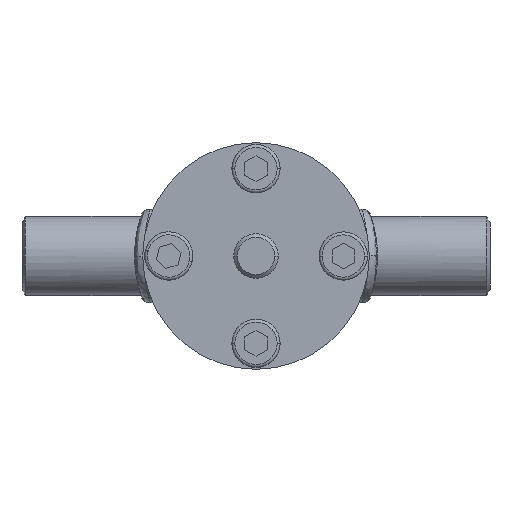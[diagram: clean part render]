
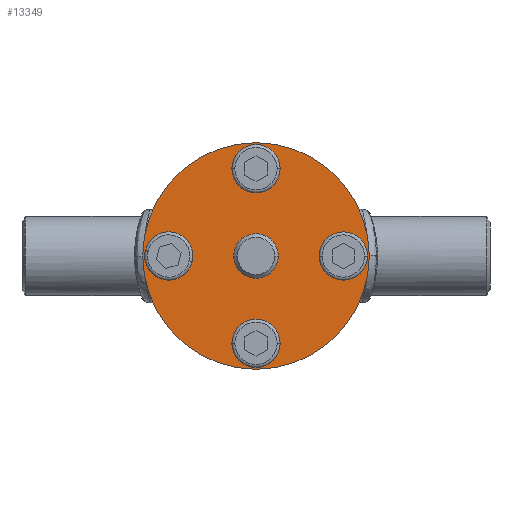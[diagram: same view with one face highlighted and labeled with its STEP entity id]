
A CAD part, front view. The second image highlights one B-rep face of the part: STEP entity #13349.
In plain terms, the highlighted planar face has unit normal (0, -1, 0) as drawn and (0, 0, -1) by its records, which use the part's own axes.
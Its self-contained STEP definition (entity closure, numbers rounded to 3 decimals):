
#16470 = CIRCLE ( 'NONE', #16471, 30.5 ) ;
#16471 = AXIS2_PLACEMENT_3D ( 'NONE', #16472, #16473, #16474 ) ;
#16472 = CARTESIAN_POINT ( 'NONE',  ( 0., 0., -18.5 ) ) ;
#16473 = DIRECTION ( 'NONE',  ( 0., 0., 1. ) ) ;
#16474 = DIRECTION ( 'NONE',  ( -1., 0., 0. ) ) ;
#451 = EDGE_LOOP ( 'NONE', ( #21326, #20352 ) ) ;
#16987 = EDGE_CURVE ( 'NONE', #12035, #12269, #16470, .T. ) ;
#659 = VERTEX_POINT ( 'NONE', #17938 ) ;
#899 = ORIENTED_EDGE ( 'NONE', *, *, #5964, .T. ) ;
#1073 = EDGE_CURVE ( 'NONE', #659, #13048, #18041, .T. ) ;
#17602 = CIRCLE ( 'NONE', #17603, 6. ) ;
#17603 = AXIS2_PLACEMENT_3D ( 'NONE', #17604, #17605, #17606 ) ;
#17604 = CARTESIAN_POINT ( 'NONE',  ( 0., 0., -18.5 ) ) ;
#17605 = DIRECTION ( 'NONE',  ( 0., 0., -1. ) ) ;
#17606 = DIRECTION ( 'NONE',  ( -1., 0., 0. ) ) ;
#17784 = ORIENTED_EDGE ( 'NONE', *, *, #2504, .T. ) ;
#1487 = EDGE_CURVE ( 'NONE', #11272, #10159, #18356, .T. ) ;
#17938 = CARTESIAN_POINT ( 'NONE',  ( -28., 0., -18.5 ) ) ;
#18041 = CIRCLE ( 'NONE', #18042, 4.5 ) ;
#18042 = AXIS2_PLACEMENT_3D ( 'NONE', #18043, #18044, #18045 ) ;
#18043 = CARTESIAN_POINT ( 'NONE',  ( -23.5, 0., -18.5 ) ) ;
#18044 = DIRECTION ( 'NONE',  ( 0., 0., 1. ) ) ;
#18045 = DIRECTION ( 'NONE',  ( -1., 0., 0. ) ) ;
#1666 = EDGE_CURVE ( 'NONE', #12659, #9835, #18495, .T. ) ;
#1737 = ORIENTED_EDGE ( 'NONE', *, *, #1073, .T. ) ;
#18356 = CIRCLE ( 'NONE', #18357, 4.5 ) ;
#18357 = AXIS2_PLACEMENT_3D ( 'NONE', #18358, #18359, #18360 ) ;
#18358 = CARTESIAN_POINT ( 'NONE',  ( 23.5, 0., -18.5 ) ) ;
#18359 = DIRECTION ( 'NONE',  ( 0., 0., 1. ) ) ;
#18360 = DIRECTION ( 'NONE',  ( -1., 0., 0. ) ) ;
#18446 = EDGE_LOOP ( 'NONE', ( #17784, #5643 ) ) ;
#18495 = CIRCLE ( 'NONE', #18496, 4.5 ) ;
#18496 = AXIS2_PLACEMENT_3D ( 'NONE', #18497, #18498, #18499 ) ;
#18497 = CARTESIAN_POINT ( 'NONE',  ( 0., 23.5, -18.5 ) ) ;
#18498 = DIRECTION ( 'NONE',  ( 0., 0., 1. ) ) ;
#18499 = DIRECTION ( 'NONE',  ( -1., 0., 0. ) ) ;
#2259 = EDGE_LOOP ( 'NONE', ( #1737, #899 ) ) ;
#2278 = VERTEX_POINT ( 'NONE', #5141 ) ;
#2504 = EDGE_CURVE ( 'NONE', #2278, #15410, #5407, .T. ) ;
#2505 = ORIENTED_EDGE ( 'NONE', *, *, #16987, .F. ) ;
#18896 = EDGE_CURVE ( 'NONE', #15749, #15976, #17602, .T. ) ;
#18932 = ORIENTED_EDGE ( 'NONE', *, *, #16192, .F. ) ;
#3029 = ORIENTED_EDGE ( 'NONE', *, *, #12493, .F. ) ;
#19595 = ORIENTED_EDGE ( 'NONE', *, *, #18896, .F. ) ;
#19868 = CARTESIAN_POINT ( 'NONE',  ( 4.5, 23.5, -18.5 ) ) ;
#19900 = CIRCLE ( 'NONE', #19901, 4.5 ) ;
#19901 = AXIS2_PLACEMENT_3D ( 'NONE', #19902, #19903, #19904 ) ;
#19902 = CARTESIAN_POINT ( 'NONE',  ( 0., 23.5, -18.5 ) ) ;
#19903 = DIRECTION ( 'NONE',  ( 0., 0., 1. ) ) ;
#19904 = DIRECTION ( 'NONE',  ( -1., 0., 0. ) ) ;
#19906 = EDGE_LOOP ( 'NONE', ( #18932, #19595 ) ) ;
#3847 = CARTESIAN_POINT ( 'NONE',  ( 28., 0., -18.5 ) ) ;
#20352 = ORIENTED_EDGE ( 'NONE', *, *, #1487, .T. ) ;
#20446 = CARTESIAN_POINT ( 'NONE',  ( 19., 0., -18.5 ) ) ;
#4317 = ORIENTED_EDGE ( 'NONE', *, *, #9853, .T. ) ;
#20821 = CIRCLE ( 'NONE', #20822, 4.5 ) ;
#20822 = AXIS2_PLACEMENT_3D ( 'NONE', #20823, #20824, #20825 ) ;
#20823 = CARTESIAN_POINT ( 'NONE',  ( 23.5, 0., -18.5 ) ) ;
#20824 = DIRECTION ( 'NONE',  ( 0., 0., 1. ) ) ;
#20825 = DIRECTION ( 'NONE',  ( -1., 0., 0. ) ) ;
#21326 = ORIENTED_EDGE ( 'NONE', *, *, #10378, .T. ) ;
#5026 = EDGE_CURVE ( 'NONE', #15410, #2278, #13649, .T. ) ;
#5045 = ORIENTED_EDGE ( 'NONE', *, *, #1666, .T. ) ;
#5141 = CARTESIAN_POINT ( 'NONE',  ( -4.5, -23.5, -18.5 ) ) ;
#5402 = EDGE_LOOP ( 'NONE', ( #5045, #4317 ) ) ;
#5407 = CIRCLE ( 'NONE', #5408, 4.5 ) ;
#5408 = AXIS2_PLACEMENT_3D ( 'NONE', #5409, #5410, #5411 ) ;
#5409 = CARTESIAN_POINT ( 'NONE',  ( 0., -23.5, -18.5 ) ) ;
#5410 = DIRECTION ( 'NONE',  ( 0., 0., 1. ) ) ;
#5411 = DIRECTION ( 'NONE',  ( -1., 0., 0. ) ) ;
#5418 = CARTESIAN_POINT ( 'NONE',  ( -30.5, 0., -18.5 ) ) ;
#5643 = ORIENTED_EDGE ( 'NONE', *, *, #5026, .T. ) ;
#5964 = EDGE_CURVE ( 'NONE', #13048, #659, #14511, .T. ) ;
#6450 = CARTESIAN_POINT ( 'NONE',  ( 30.5, 0., -18.5 ) ) ;
#6780 = CIRCLE ( 'NONE', #6781, 30.5 ) ;
#6781 = AXIS2_PLACEMENT_3D ( 'NONE', #6782, #6783, #6784 ) ;
#6782 = CARTESIAN_POINT ( 'NONE',  ( 0., 0., -18.5 ) ) ;
#6783 = DIRECTION ( 'NONE',  ( 0., 0., 1. ) ) ;
#6784 = DIRECTION ( 'NONE',  ( -1., 0., 0. ) ) ;
#6907 = CARTESIAN_POINT ( 'NONE',  ( -4.5, 23.5, -18.5 ) ) ;
#7350 = CARTESIAN_POINT ( 'NONE',  ( -19., 0., -18.5 ) ) ;
#7517 = FACE_OUTER_BOUND ( 'NONE', #13106, .T. ) ;
#7518 = FACE_BOUND ( 'NONE', #2259, .T. ) ;
#7519 = FACE_BOUND ( 'NONE', #451, .T. ) ;
#7520 = FACE_BOUND ( 'NONE', #19906, .T. ) ;
#7521 = FACE_BOUND ( 'NONE', #18446, .T. ) ;
#7522 = FACE_BOUND ( 'NONE', #5402, .T. ) ;
#7523 = PLANE ( 'NONE',  #7524 ) ;
#7524 = AXIS2_PLACEMENT_3D ( 'NONE', #7525, #7526, #7527 ) ;
#7525 = CARTESIAN_POINT ( 'NONE',  ( 0., 0., -18.5 ) ) ;
#7526 = DIRECTION ( 'NONE',  ( 0., 0., -1. ) ) ;
#7527 = DIRECTION ( 'NONE',  ( -1., 0., 0. ) ) ;
#9835 = VERTEX_POINT ( 'NONE', #19868 ) ;
#9853 = EDGE_CURVE ( 'NONE', #9835, #12659, #19900, .T. ) ;
#10159 = VERTEX_POINT ( 'NONE', #20446 ) ;
#10378 = EDGE_CURVE ( 'NONE', #10159, #11272, #20821, .T. ) ;
#11272 = VERTEX_POINT ( 'NONE', #3847 ) ;
#12035 = VERTEX_POINT ( 'NONE', #5418 ) ;
#12269 = VERTEX_POINT ( 'NONE', #6450 ) ;
#12493 = EDGE_CURVE ( 'NONE', #12269, #12035, #6780, .T. ) ;
#12659 = VERTEX_POINT ( 'NONE', #6907 ) ;
#13048 = VERTEX_POINT ( 'NONE', #7350 ) ;
#13106 = EDGE_LOOP ( 'NONE', ( #3029, #2505 ) ) ;
#13349 = ADVANCED_FACE ( 'NONE', ( #7517, #7518, #7519, #7520, #7521, #7522 ), #7523, .T. ) ;
#13649 = CIRCLE ( 'NONE', #13650, 4.5 ) ;
#13650 = AXIS2_PLACEMENT_3D ( 'NONE', #13651, #13656, #13657 ) ;
#13651 = CARTESIAN_POINT ( 'NONE',  ( 0., -23.5, -18.5 ) ) ;
#13656 = DIRECTION ( 'NONE',  ( 0., 0., 1. ) ) ;
#13657 = DIRECTION ( 'NONE',  ( -1., 0., 0. ) ) ;
#14271 = CARTESIAN_POINT ( 'NONE',  ( 4.5, -23.5, -18.5 ) ) ;
#14511 = CIRCLE ( 'NONE', #14512, 4.5 ) ;
#14512 = AXIS2_PLACEMENT_3D ( 'NONE', #14513, #14514, #14515 ) ;
#14513 = CARTESIAN_POINT ( 'NONE',  ( -23.5, 0., -18.5 ) ) ;
#14514 = DIRECTION ( 'NONE',  ( 0., 0., 1. ) ) ;
#14515 = DIRECTION ( 'NONE',  ( -1., 0., 0. ) ) ;
#15372 = CARTESIAN_POINT ( 'NONE',  ( 6., 0., -18.5 ) ) ;
#15410 = VERTEX_POINT ( 'NONE', #14271 ) ;
#15496 = CARTESIAN_POINT ( 'NONE',  ( -6., 0., -18.5 ) ) ;
#15662 = CIRCLE ( 'NONE', #15663, 6. ) ;
#15663 = AXIS2_PLACEMENT_3D ( 'NONE', #15664, #15665, #15666 ) ;
#15664 = CARTESIAN_POINT ( 'NONE',  ( 0., 0., -18.5 ) ) ;
#15665 = DIRECTION ( 'NONE',  ( 0., 0., -1. ) ) ;
#15666 = DIRECTION ( 'NONE',  ( -1., 0., 0. ) ) ;
#15749 = VERTEX_POINT ( 'NONE', #15372 ) ;
#15976 = VERTEX_POINT ( 'NONE', #15496 ) ;
#16192 = EDGE_CURVE ( 'NONE', #15976, #15749, #15662, .T. ) ;
